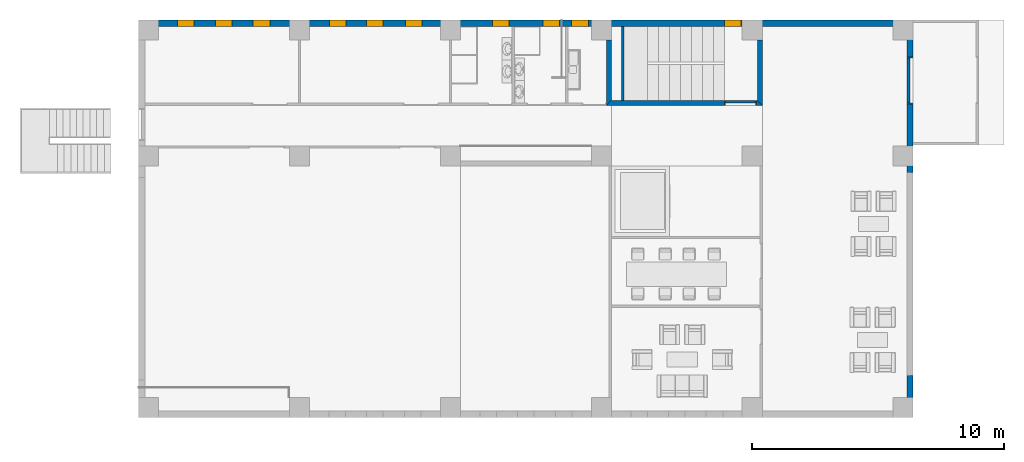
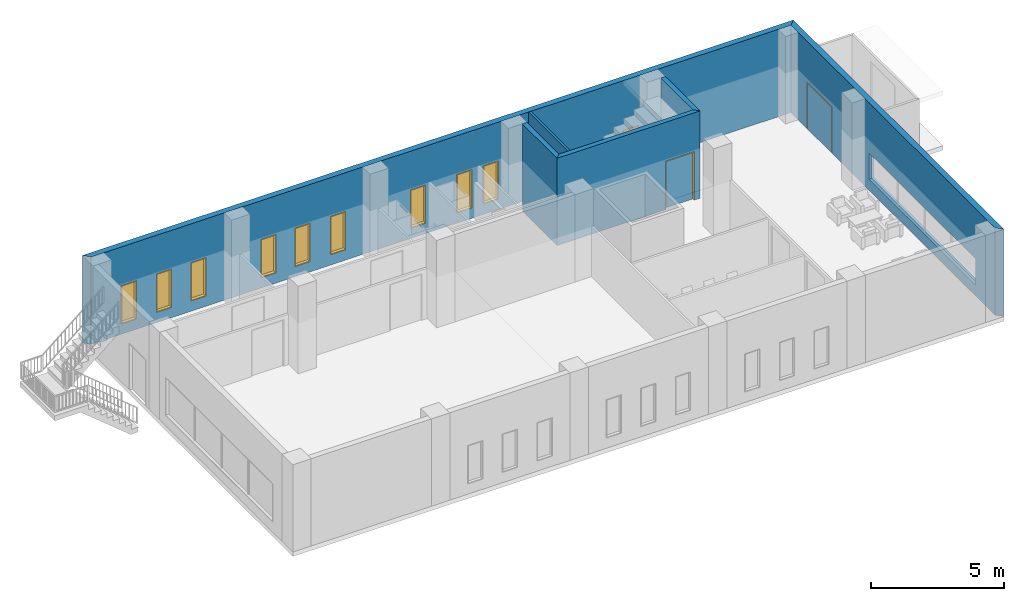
# One storey, part 5 of 17: 10 windows, 6 walls, 2 doors, 13 openings.
"""IFC2X3 building model written with IfcOpenShell, lengths in millimetres."""

from ifc_helpers import new_model, entity, si_unit, converted_unit, direction, frame, origin_with_axes, origin_2d_with_axis, place, context, project, spatial, polyline, rectangle, outline, extrude, open_shell, surface_model, source, transform, mapped, material, layer, layer_set, layer_usage, type_object, element, fill, save


model = new_model("IFC2X3")

# Units and contexts
model_context = context("Model", 3, precision=1e-05, world=origin_with_axes(), true_north=direction((0.0, 1.0)))
ifc_project = project(units=[si_unit("LENGTHUNIT", "METRE", prefix="MILLI"), si_unit("AREAUNIT", "SQUARE_METRE"), si_unit("VOLUMEUNIT", "CUBIC_METRE"), converted_unit("PLANEANGLEUNIT", "DEGREE", entity("IfcPlaneAngleMeasure", 0.017453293), si_unit("PLANEANGLEUNIT", "RADIAN"), dimensions=[0, 0, 0, 0, 0, 0, 0]), si_unit("SOLIDANGLEUNIT", "STERADIAN"), si_unit("MASSUNIT", "GRAM"), si_unit("TIMEUNIT", "SECOND"), si_unit("THERMODYNAMICTEMPERATUREUNIT", "DEGREE_CELSIUS"), si_unit("LUMINOUSINTENSITYUNIT", "LUMEN")], contexts=[model_context])

# Site, building, storey
site_placement = place(None, origin_with_axes())
site = spatial("IfcSite", under=ifc_project, at=site_placement, Name="\x83T\x83C\x83g", CompositionType="ELEMENT")
building_placement = place(site_placement, origin_with_axes())
building = spatial("IfcBuilding", under=site, at=building_placement, Name="Daitec-Sample 201208", CompositionType="ELEMENT")
storey_placement = place(building_placement, origin_with_axes())
storey = spatial("IfcBuildingStorey", under=building, at=storey_placement, Name="1F", CompositionType="ELEMENT", Elevation=0.0)

# Wall, openings, door
ifc_material_1 = material(Name="\x83R\x83\x93\x83N\x83\x8a\x81[\x83g-\x8d\\\x91¢2")
ifc_layer_1 = layer(ifc_material_1, 250.0, ventilated="UNKNOWN")
ifc_layer_set_1 = layer_set([ifc_layer_1], Name="\x83R\x83\x93\x83N\x83\x8a\x81[\x83g-\x8d\\\x91¢2 250")
ifc_layer_usage_1 = layer_usage(ifc_layer_set_1, "AXIS2", "POSITIVE", 0.0)
wall_type_1 = type_object("IfcWallType", Name="\x83R\x83\x93\x83N\x83\x8a\x81[\x83g-\x8d\\\x91¢2 250", PredefinedType="NOTDEFINED")
wall_1_placement = place(storey_placement, frame((36900.0, 8000.0, 0.0), z_axis=(0.0, 0.0, 1.0), x_axis=(0.0, 1.0, 0.0)))
wall_1 = element("IfcWallStandardCase", 1, at=wall_1_placement, inside=storey, type_object=wall_type_1, material=ifc_layer_usage_1, Name="W7", context=model_context, shape_type="SweptSolid", body=[
    extrude(outline(polyline([(0.0, 0.0), (15800.0, 0.0), (15550.0, 250.0), (250.0, 250.0), (0.0, 0.0)])), origin_with_axes(), (0.0, 0.0, 1.0), 4000.0),
])
opening_1_placement = place(wall_1_placement, frame((5705.9474, 0.0, 500.0), z_axis=(0.0, 0.0, 1.0), x_axis=(1.0, 0.0, 0.0)))
element("IfcOpeningElement", 2, at=opening_1_placement, cuts=wall_1, context=model_context, shape_type="SweptSolid", body=[
    extrude(rectangle(XDim=8000.0, YDim=1200.0, at=origin_2d_with_axis()), frame((0.0, -1.0, 600.0), z_axis=(0.0, 1.0, 0.0), x_axis=(1.0, 0.0, 0.0)), (0.0, 0.0, 1.0), 252.0),
    extrude(rectangle(XDim=8000.0, YDim=1200.0, at=origin_2d_with_axis()), frame((0.0, 1.0, 600.0), z_axis=(0.0, -1.0, 0.0), x_axis=(1.0, 0.0, 0.0)), (0.0, 0.0, 1.0), 252.0),
    extrude(rectangle(XDim=8060.0, YDim=1260.0, at=origin_2d_with_axis()), frame((0.0, 126.0, 600.0), z_axis=(0.0, -1.0, 0.0), x_axis=(1.0, 0.0, 0.0)), (0.0, 0.0, 1.0), 252.0),
])
opening_2_placement = place(wall_1_placement, frame((13394.849, 0.0, 0.0), z_axis=(0.0, 0.0, 1.0), x_axis=(1.0, 0.0, 0.0)))
opening_2 = element("IfcOpeningElement", 3, at=opening_2_placement, cuts=wall_1, context=model_context, shape_type="SweptSolid", body=[
    extrude(rectangle(XDim=1860.0, YDim=2130.0, at=origin_2d_with_axis()), frame((0.0, 126.0, 1065.0), z_axis=(0.0, -1.0, 0.0), x_axis=(1.0, 0.0, 0.0)), (0.0, 0.0, 1.0), 252.0),
])
ifc_material_2 = material(Name="\x94w\x8ci")
door_style_1 = type_object("IfcDoorStyle", Name="\x8e©\x97R\x8aJ\x82«\x8cË_JX5", ConstructionType="NOTDEFINED", OperationType="NOTDEFINED", ParameterTakesPrecedence=False, Sizeable=False)
door_1_placement = place(opening_2_placement, frame((-900.0, 0.0, 0.0), z_axis=(0.0, 0.0, 1.0), x_axis=(1.0, 0.0, 0.0)))
door_1 = element("IfcDoor", 4, at=door_1_placement, inside=storey, type_object=door_style_1, material=ifc_material_2, Name="SD6", OverallHeight=2100.0, OverallWidth=1800.0, context=model_context, shape_type="SurfaceModel", body=[
    surface_model("IfcShellBasedSurfaceModel", [(900.0, 125.0, 0.0), (900.0, 125.0, 2100.0), (0.0, 125.0, 2100.0), (0.0, 125.0, 0.0)], [open_shell([[[0, 1, 2, 3]]])]),
    surface_model("IfcShellBasedSurfaceModel", [(900.0, 125.0, 0.0), (1800.0, 125.0, 0.0), (1800.0, 125.0, 2100.0), (900.0, 125.0, 2100.0)], [open_shell([[[0, 1, 2, 3]]])]),
    surface_model("IfcShellBasedSurfaceModel", [(1830.0, 0.0, 0.0), (1830.0, 0.0, 2130.0), (-30.0, 0.0, 2130.0), (-30.0, 0.0, 0.0), (0.0, 0.0, 0.0), (0.0, 0.0, 2100.0), (1800.0, 0.0, 2100.0), (1800.0, 0.0, 0.0)], [open_shell([[[0, 1, 2, 3, 4, 5, 6, 7]]])]),
    surface_model("IfcShellBasedSurfaceModel", [(1830.0, 250.0, 0.0), (1830.0, 250.0, 2130.0), (-30.0, 250.0, 2130.0), (-30.0, 250.0, 0.0), (0.0, 250.0, 0.0), (0.0, 250.0, 2100.0), (1800.0, 250.0, 2100.0), (1800.0, 250.0, 0.0)], [open_shell([[[0, 1, 2, 3, 4, 5, 6, 7]]])]),
    surface_model("IfcShellBasedSurfaceModel", [(1800.0, 0.0, 0.0), (1800.0, 0.0, 2100.0), (1800.0, 250.0, 2100.0), (1800.0, 250.0, 0.0), (0.0, 0.0, 2100.0), (0.0, 250.0, 2100.0), (1830.0, 0.0, 0.0), (1830.0, 250.0, 0.0), (0.0, 0.0, 0.0), (0.0, 250.0, 0.0), (1830.0, 0.0, 2130.0), (1830.0, 250.0, 2130.0), (-30.0, 0.0, 0.0), (-30.0, 250.0, 0.0), (-30.0, 0.0, 2130.0), (-30.0, 250.0, 2130.0)], [open_shell([[[0, 1, 2, 3]], [[1, 4, 5, 2]], [[6, 0, 3, 7]], [[4, 8, 9, 5]], [[10, 6, 7, 11]], [[8, 12, 13, 9]], [[14, 10, 11, 15]], [[12, 14, 15, 13]]])]),
])
fill(opening_2, door_1)

# Wall, openings, windows
ifc_layer_usage_2 = layer_usage(ifc_layer_set_1, "AXIS2", "POSITIVE", 0.0)
wall_2_placement = place(storey_placement, frame((36900.0, 23800.0, 0.0), z_axis=(0.0, 0.0, 1.0), x_axis=(-1.0, 0.0, 0.0)))
wall_2 = element("IfcWallStandardCase", 5, at=wall_2_placement, inside=storey, type_object=wall_type_1, material=ifc_layer_usage_2, Name="W8", context=model_context, shape_type="SweptSolid", body=[
    extrude(outline(polyline([(0.0, 0.0), (30800.0, 0.0), (30550.0, 250.0), (250.0, 250.0), (0.0, 0.0)])), origin_with_axes(), (0.0, 0.0, 1.0), 4000.0),
])
opening_3_placement = place(wall_2_placement, frame((28920.264, 0.0, 500.0), z_axis=(0.0, 0.0, 1.0), x_axis=(1.0, 0.0, 0.0)))
opening_3 = element("IfcOpeningElement", 6, at=opening_3_placement, cuts=wall_2, context=model_context, shape_type="SweptSolid", body=[
    extrude(rectangle(XDim=600.0, YDim=1700.0, at=origin_2d_with_axis()), frame((0.0, 59.0, 850.0), z_axis=(0.0, 1.0, 0.0), x_axis=(1.0, 0.0, 0.0)), (0.0, 0.0, 1.0), 252.0),
    extrude(rectangle(XDim=600.0, YDim=1700.0, at=origin_2d_with_axis()), frame((0.0, 61.0, 850.0), z_axis=(0.0, -1.0, 0.0), x_axis=(1.0, 0.0, 0.0)), (0.0, 0.0, 1.0), 252.0),
    extrude(rectangle(XDim=660.0, YDim=1760.0, at=origin_2d_with_axis()), frame((0.0, -66.0, 850.0), z_axis=(0.0, 1.0, 0.0), x_axis=(1.0, 0.0, 0.0)), (0.0, 0.0, 1.0), 252.0),
])
opening_4_placement = place(wall_2_placement, frame((27403.544, 0.0, 500.0), z_axis=(0.0, 0.0, 1.0), x_axis=(1.0, 0.0, 0.0)))
opening_4 = element("IfcOpeningElement", 7, at=opening_4_placement, cuts=wall_2, context=model_context, shape_type="SweptSolid", body=[
    extrude(rectangle(XDim=600.0, YDim=1700.0, at=origin_2d_with_axis()), frame((0.0, 59.0, 850.0), z_axis=(0.0, 1.0, 0.0), x_axis=(1.0, 0.0, 0.0)), (0.0, 0.0, 1.0), 252.0),
    extrude(rectangle(XDim=600.0, YDim=1700.0, at=origin_2d_with_axis()), frame((0.0, 61.0, 850.0), z_axis=(0.0, -1.0, 0.0), x_axis=(1.0, 0.0, 0.0)), (0.0, 0.0, 1.0), 252.0),
    extrude(rectangle(XDim=660.0, YDim=1760.0, at=origin_2d_with_axis()), frame((0.0, -66.0, 850.0), z_axis=(0.0, 1.0, 0.0), x_axis=(1.0, 0.0, 0.0)), (0.0, 0.0, 1.0), 252.0),
])
opening_5_placement = place(wall_2_placement, frame((25908.913, 0.0, 500.0), z_axis=(0.0, 0.0, 1.0), x_axis=(1.0, 0.0, 0.0)))
opening_5 = element("IfcOpeningElement", 8, at=opening_5_placement, cuts=wall_2, context=model_context, shape_type="SweptSolid", body=[
    extrude(rectangle(XDim=600.0, YDim=1700.0, at=origin_2d_with_axis()), frame((0.0, 191.0, 850.0), z_axis=(0.0, -1.0, 0.0), x_axis=(1.0, 0.0, 0.0)), (0.0, 0.0, 1.0), 252.0),
    extrude(rectangle(XDim=600.0, YDim=1700.0, at=origin_2d_with_axis()), frame((0.0, 189.0, 850.0), z_axis=(0.0, 1.0, 0.0), x_axis=(1.0, 0.0, 0.0)), (0.0, 0.0, 1.0), 252.0),
    extrude(rectangle(XDim=660.0, YDim=1760.0, at=origin_2d_with_axis()), frame((0.0, 316.0, 850.0), z_axis=(0.0, -1.0, 0.0), x_axis=(1.0, 0.0, 0.0)), (0.0, 0.0, 1.0), 252.0),
])
opening_6_placement = place(wall_2_placement, frame((21400.0, 0.0, 500.0), z_axis=(0.0, 0.0, 1.0), x_axis=(1.0, 0.0, 0.0)))
opening_6 = element("IfcOpeningElement", 9, at=opening_6_placement, cuts=wall_2, context=model_context, shape_type="SweptSolid", body=[
    extrude(rectangle(XDim=600.0, YDim=1700.0, at=origin_2d_with_axis()), frame((0.0, 191.0, 850.0), z_axis=(0.0, -1.0, 0.0), x_axis=(1.0, 0.0, 0.0)), (0.0, 0.0, 1.0), 252.0),
    extrude(rectangle(XDim=600.0, YDim=1700.0, at=origin_2d_with_axis()), frame((0.0, 189.0, 850.0), z_axis=(0.0, 1.0, 0.0), x_axis=(1.0, 0.0, 0.0)), (0.0, 0.0, 1.0), 252.0),
    extrude(rectangle(XDim=660.0, YDim=1760.0, at=origin_2d_with_axis()), frame((0.0, 316.0, 850.0), z_axis=(0.0, -1.0, 0.0), x_axis=(1.0, 0.0, 0.0)), (0.0, 0.0, 1.0), 252.0),
])
opening_7_placement = place(wall_2_placement, frame((22875.473, 0.0, 500.0), z_axis=(0.0, 0.0, 1.0), x_axis=(1.0, 0.0, 0.0)))
opening_7 = element("IfcOpeningElement", 10, at=opening_7_placement, cuts=wall_2, context=model_context, shape_type="SweptSolid", body=[
    extrude(rectangle(XDim=600.0, YDim=1700.0, at=origin_2d_with_axis()), frame((0.0, 191.0, 850.0), z_axis=(0.0, -1.0, 0.0), x_axis=(1.0, 0.0, 0.0)), (0.0, 0.0, 1.0), 252.0),
    extrude(rectangle(XDim=600.0, YDim=1700.0, at=origin_2d_with_axis()), frame((0.0, 189.0, 850.0), z_axis=(0.0, 1.0, 0.0), x_axis=(1.0, 0.0, 0.0)), (0.0, 0.0, 1.0), 252.0),
    extrude(rectangle(XDim=660.0, YDim=1760.0, at=origin_2d_with_axis()), frame((0.0, 316.0, 850.0), z_axis=(0.0, -1.0, 0.0), x_axis=(1.0, 0.0, 0.0)), (0.0, 0.0, 1.0), 252.0),
])
opening_8_placement = place(wall_2_placement, frame((19864.122, 0.0, 500.0), z_axis=(0.0, 0.0, 1.0), x_axis=(1.0, 0.0, 0.0)))
opening_8 = element("IfcOpeningElement", 11, at=opening_8_placement, cuts=wall_2, context=model_context, shape_type="SweptSolid", body=[
    extrude(rectangle(XDim=600.0, YDim=1700.0, at=origin_2d_with_axis()), frame((0.0, 191.0, 850.0), z_axis=(0.0, -1.0, 0.0), x_axis=(1.0, 0.0, 0.0)), (0.0, 0.0, 1.0), 252.0),
    extrude(rectangle(XDim=600.0, YDim=1700.0, at=origin_2d_with_axis()), frame((0.0, 189.0, 850.0), z_axis=(0.0, 1.0, 0.0), x_axis=(1.0, 0.0, 0.0)), (0.0, 0.0, 1.0), 252.0),
    extrude(rectangle(XDim=660.0, YDim=1760.0, at=origin_2d_with_axis()), frame((0.0, 316.0, 850.0), z_axis=(0.0, -1.0, 0.0), x_axis=(1.0, 0.0, 0.0)), (0.0, 0.0, 1.0), 252.0),
])
opening_9_placement = place(wall_2_placement, frame((7180.7752, 0.0, 500.0), z_axis=(0.0, 0.0, 1.0), x_axis=(1.0, 0.0, 0.0)))
opening_9 = element("IfcOpeningElement", 12, at=opening_9_placement, cuts=wall_2, context=model_context, shape_type="SweptSolid", body=[
    extrude(rectangle(XDim=600.0, YDim=1200.0, at=origin_2d_with_axis()), frame((0.0, 59.0, 600.0), z_axis=(0.0, 1.0, 0.0), x_axis=(1.0, 0.0, 0.0)), (0.0, 0.0, 1.0), 252.0),
    extrude(rectangle(XDim=600.0, YDim=1200.0, at=origin_2d_with_axis()), frame((0.0, 61.0, 600.0), z_axis=(0.0, -1.0, 0.0), x_axis=(1.0, 0.0, 0.0)), (0.0, 0.0, 1.0), 252.0),
    extrude(rectangle(XDim=660.0, YDim=1260.0, at=origin_2d_with_axis()), frame((0.0, -66.0, 600.0), z_axis=(0.0, 1.0, 0.0), x_axis=(1.0, 0.0, 0.0)), (0.0, 0.0, 1.0), 252.0),
])
opening_10_placement = place(wall_2_placement, frame((16396.197, 0.0, 500.0), z_axis=(0.0, 0.0, 1.0), x_axis=(1.0, 0.0, 0.0)))
opening_10 = element("IfcOpeningElement", 13, at=opening_10_placement, cuts=wall_2, context=model_context, shape_type="SweptSolid", body=[
    extrude(rectangle(XDim=600.0, YDim=1700.0, at=origin_2d_with_axis()), frame((0.0, -1.0, 850.0), z_axis=(0.0, 1.0, 0.0), x_axis=(1.0, 0.0, 0.0)), (0.0, 0.0, 1.0), 252.0),
    extrude(rectangle(XDim=600.0, YDim=1700.0, at=origin_2d_with_axis()), frame((0.0, 1.0, 850.0), z_axis=(0.0, -1.0, 0.0), x_axis=(1.0, 0.0, 0.0)), (0.0, 0.0, 1.0), 252.0),
    extrude(rectangle(XDim=660.0, YDim=1760.0, at=origin_2d_with_axis()), frame((0.0, -126.0, 850.0), z_axis=(0.0, 1.0, 0.0), x_axis=(1.0, 0.0, 0.0)), (0.0, 0.0, 1.0), 252.0),
])
opening_11_placement = place(wall_2_placement, frame((14398.791, 0.0, 500.0), z_axis=(0.0, 0.0, 1.0), x_axis=(1.0, 0.0, 0.0)))
opening_11 = element("IfcOpeningElement", 14, at=opening_11_placement, cuts=wall_2, context=model_context, shape_type="SweptSolid", body=[
    extrude(rectangle(XDim=600.0, YDim=1700.0, at=origin_2d_with_axis()), frame((0.0, -1.0, 850.0), z_axis=(0.0, 1.0, 0.0), x_axis=(1.0, 0.0, 0.0)), (0.0, 0.0, 1.0), 252.0),
    extrude(rectangle(XDim=600.0, YDim=1700.0, at=origin_2d_with_axis()), frame((0.0, 1.0, 850.0), z_axis=(0.0, -1.0, 0.0), x_axis=(1.0, 0.0, 0.0)), (0.0, 0.0, 1.0), 252.0),
    extrude(rectangle(XDim=660.0, YDim=1760.0, at=origin_2d_with_axis()), frame((0.0, -126.0, 850.0), z_axis=(0.0, 1.0, 0.0), x_axis=(1.0, 0.0, 0.0)), (0.0, 0.0, 1.0), 252.0),
])
opening_12_placement = place(wall_2_placement, frame((13248.695, 0.0, 500.0), z_axis=(0.0, 0.0, 1.0), x_axis=(1.0, 0.0, 0.0)))
opening_12 = element("IfcOpeningElement", 15, at=opening_12_placement, cuts=wall_2, context=model_context, shape_type="SweptSolid", body=[
    extrude(rectangle(XDim=600.0, YDim=1700.0, at=origin_2d_with_axis()), frame((0.0, 191.0, 850.0), z_axis=(0.0, -1.0, 0.0), x_axis=(1.0, 0.0, 0.0)), (0.0, 0.0, 1.0), 252.0),
    extrude(rectangle(XDim=600.0, YDim=1700.0, at=origin_2d_with_axis()), frame((0.0, 189.0, 850.0), z_axis=(0.0, 1.0, 0.0), x_axis=(1.0, 0.0, 0.0)), (0.0, 0.0, 1.0), 252.0),
    extrude(rectangle(XDim=660.0, YDim=1760.0, at=origin_2d_with_axis()), frame((0.0, 316.0, 850.0), z_axis=(0.0, -1.0, 0.0), x_axis=(1.0, 0.0, 0.0)), (0.0, 0.0, 1.0), 252.0),
])
window_style = type_object("IfcWindowStyle", ConstructionType="NOTDEFINED", OperationType="NOTDEFINED", ParameterTakesPrecedence=False, Sizeable=False)
shared_shape_1 = source(origin_with_axes(), model_context, "Body", "SurfaceModel", [
    surface_model("IfcShellBasedSurfaceModel", [(-300.0, -65.0, 0.0), (-300.0, -65.0, 1700.0), (300.0, -65.0, 1700.0), (300.0, -65.0, 0.0), (-260.0, -65.0, 40.0), (260.0, -65.0, 40.0), (260.0, -65.0, 1660.0), (-260.0, -65.0, 1660.0)], [open_shell([[[0, 1, 2, 3], [4, 5, 6, 7]]])]),
    surface_model("IfcShellBasedSurfaceModel", [(-260.0, -65.0, 40.0), (-260.0, -65.0, 1660.0), (260.0, -65.0, 1660.0), (260.0, -65.0, 40.0)], [open_shell([[[0, 1, 2, 3]]])]),
    surface_model("IfcShellBasedSurfaceModel", [(-330.0, 60.0, -30.0), (-330.0, 60.0, 1730.0), (330.0, 60.0, 1730.0), (330.0, 60.0, -30.0), (-300.0, 60.0, 0.0), (300.0, 60.0, 0.0), (300.0, 60.0, 1700.0), (-300.0, 60.0, 1700.0)], [open_shell([[[0, 1, 2, 3], [4, 5, 6, 7]]])]),
    surface_model("IfcShellBasedSurfaceModel", [(-330.0, -190.0, -30.0), (-330.0, -190.0, 1730.0), (330.0, -190.0, 1730.0), (330.0, -190.0, -30.0), (-300.0, -190.0, 0.0), (300.0, -190.0, 0.0), (300.0, -190.0, 1700.0), (-300.0, -190.0, 1700.0)], [open_shell([[[0, 1, 2, 3], [4, 5, 6, 7]]])]),
    surface_model("IfcShellBasedSurfaceModel", [(-330.0, 60.0, -30.0), (330.0, 60.0, -30.0), (330.0, -190.0, -30.0), (-330.0, -190.0, -30.0), (330.0, 60.0, 1730.0), (330.0, -190.0, 1730.0), (-330.0, 60.0, 1730.0), (-330.0, -190.0, 1730.0)], [open_shell([[[0, 1, 2, 3]], [[1, 4, 5, 2]], [[6, 0, 3, 7]], [[4, 6, 7, 5]]])]),
    surface_model("IfcShellBasedSurfaceModel", [(-300.0, 60.0, 0.0), (300.0, 60.0, 0.0), (300.0, -190.0, 0.0), (-300.0, -190.0, 0.0), (300.0, 60.0, 1700.0), (300.0, -190.0, 1700.0), (-300.0, 60.0, 1700.0), (-300.0, -190.0, 1700.0)], [open_shell([[[0, 1, 2, 3]], [[1, 4, 5, 2]], [[6, 0, 3, 7]], [[4, 6, 7, 5]]])]),
])
window_1_placement = place(opening_3_placement, frame((-300.0, 0.0, 0.0), z_axis=(0.0, 0.0, 1.0), x_axis=(1.0, 0.0, 0.0)))
window_1 = element("IfcWindow", 16, at=window_1_placement, inside=storey, type_object=window_style, material=ifc_material_2, Name="AW8", OverallHeight=1700.0, OverallWidth=600.0, context=model_context, shape_type="MappedRepresentation", body=[
    mapped(shared_shape_1, transform((300.0, 60.0, 0.0), x_axis=(-1.0, 0.0, 0.0), y_axis=(0.0, -1.0, 0.0), z_axis=(0.0, 0.0, 1.0))),
])
fill(opening_3, window_1)
window_2_placement = place(opening_4_placement, frame((-300.0, 0.0, 0.0), z_axis=(0.0, 0.0, 1.0), x_axis=(1.0, 0.0, 0.0)))
window_2 = element("IfcWindow", 17, at=window_2_placement, inside=storey, type_object=window_style, material=ifc_material_2, Name="AW9", OverallHeight=1700.0, OverallWidth=600.0, context=model_context, shape_type="MappedRepresentation", body=[
    mapped(shared_shape_1, transform((300.0, 60.0, 0.0), x_axis=(-1.0, 0.0, 0.0), y_axis=(0.0, -1.0, 0.0), z_axis=(0.0, 0.0, 1.0))),
])
fill(opening_4, window_2)
shared_shape_2 = source(origin_with_axes(), model_context, "Body", "SurfaceModel", [
    surface_model("IfcShellBasedSurfaceModel", [(-300.0, 65.0, 0.0), (-300.0, 65.0, 1700.0), (300.0, 65.0, 1700.0), (300.0, 65.0, 0.0), (-260.0, 65.0, 40.0), (260.0, 65.0, 40.0), (260.0, 65.0, 1660.0), (-260.0, 65.0, 1660.0)], [open_shell([[[0, 1, 2, 3], [4, 5, 6, 7]]])]),
    surface_model("IfcShellBasedSurfaceModel", [(-260.0, 65.0, 40.0), (-260.0, 65.0, 1660.0), (260.0, 65.0, 1660.0), (260.0, 65.0, 40.0)], [open_shell([[[0, 1, 2, 3]]])]),
    surface_model("IfcShellBasedSurfaceModel", [(-330.0, 190.0, -30.0), (-330.0, 190.0, 1730.0), (330.0, 190.0, 1730.0), (330.0, 190.0, -30.0), (-300.0, 190.0, 0.0), (300.0, 190.0, 0.0), (300.0, 190.0, 1700.0), (-300.0, 190.0, 1700.0)], [open_shell([[[0, 1, 2, 3], [4, 5, 6, 7]]])]),
    surface_model("IfcShellBasedSurfaceModel", [(-330.0, -60.0, -30.0), (-330.0, -60.0, 1730.0), (330.0, -60.0, 1730.0), (330.0, -60.0, -30.0), (-300.0, -60.0, 0.0), (300.0, -60.0, 0.0), (300.0, -60.0, 1700.0), (-300.0, -60.0, 1700.0)], [open_shell([[[0, 1, 2, 3], [4, 5, 6, 7]]])]),
    surface_model("IfcShellBasedSurfaceModel", [(-330.0, 190.0, -30.0), (330.0, 190.0, -30.0), (330.0, -60.0, -30.0), (-330.0, -60.0, -30.0), (330.0, 190.0, 1730.0), (330.0, -60.0, 1730.0), (-330.0, 190.0, 1730.0), (-330.0, -60.0, 1730.0)], [open_shell([[[0, 1, 2, 3]], [[1, 4, 5, 2]], [[6, 0, 3, 7]], [[4, 6, 7, 5]]])]),
    surface_model("IfcShellBasedSurfaceModel", [(-300.0, 190.0, 0.0), (300.0, 190.0, 0.0), (300.0, -60.0, 0.0), (-300.0, -60.0, 0.0), (300.0, 190.0, 1700.0), (300.0, -60.0, 1700.0), (-300.0, 190.0, 1700.0), (-300.0, -60.0, 1700.0)], [open_shell([[[0, 1, 2, 3]], [[1, 4, 5, 2]], [[6, 0, 3, 7]], [[4, 6, 7, 5]]])]),
])
window_3_placement = place(opening_5_placement, frame((-300.0, 0.0, 0.0), z_axis=(0.0, 0.0, 1.0), x_axis=(1.0, 0.0, 0.0)))
window_3 = element("IfcWindow", 18, at=window_3_placement, inside=storey, type_object=window_style, material=ifc_material_2, Name="AW0", OverallHeight=1700.0, OverallWidth=600.0, context=model_context, shape_type="MappedRepresentation", body=[
    mapped(shared_shape_2, transform((300.0, 60.0, 0.0))),
])
fill(opening_5, window_3)
window_4_placement = place(opening_6_placement, frame((-300.0, 0.0, 0.0), z_axis=(0.0, 0.0, 1.0), x_axis=(1.0, 0.0, 0.0)))
window_4 = element("IfcWindow", 19, at=window_4_placement, inside=storey, type_object=window_style, material=ifc_material_2, Name="AW1", OverallHeight=1700.0, OverallWidth=600.0, context=model_context, shape_type="MappedRepresentation", body=[
    mapped(shared_shape_2, transform((300.0, 60.0, 0.0))),
])
fill(opening_6, window_4)
window_5_placement = place(opening_7_placement, frame((-300.0, 0.0, 0.0), z_axis=(0.0, 0.0, 1.0), x_axis=(1.0, 0.0, 0.0)))
window_5 = element("IfcWindow", 20, at=window_5_placement, inside=storey, type_object=window_style, material=ifc_material_2, Name="AW2", OverallHeight=1700.0, OverallWidth=600.0, context=model_context, shape_type="MappedRepresentation", body=[
    mapped(shared_shape_2, transform((300.0, 60.0, 0.0))),
])
fill(opening_7, window_5)
window_6_placement = place(opening_8_placement, frame((-300.0, 0.0, 0.0), z_axis=(0.0, 0.0, 1.0), x_axis=(1.0, 0.0, 0.0)))
window_6 = element("IfcWindow", 21, at=window_6_placement, inside=storey, type_object=window_style, material=ifc_material_2, Name="AW3", OverallHeight=1700.0, OverallWidth=600.0, context=model_context, shape_type="MappedRepresentation", body=[
    mapped(shared_shape_2, transform((300.0, 60.0, 0.0))),
])
fill(opening_8, window_6)
window_7_placement = place(opening_12_placement, frame((-300.0, 0.0, 0.0), z_axis=(0.0, 0.0, 1.0), x_axis=(1.0, 0.0, 0.0)))
window_7 = element("IfcWindow", 22, at=window_7_placement, inside=storey, type_object=window_style, material=ifc_material_2, Name="AW4", OverallHeight=1700.0, OverallWidth=600.0, context=model_context, shape_type="MappedRepresentation", body=[
    mapped(shared_shape_2, transform((300.0, 60.0, 0.0))),
])
fill(opening_12, window_7)
shared_shape_3 = source(origin_with_axes(), model_context, "Body", "SurfaceModel", [
    surface_model("IfcShellBasedSurfaceModel", [(-300.0, -65.0, 0.0), (-300.0, -65.0, 1200.0), (300.0, -65.0, 1200.0), (300.0, -65.0, 0.0), (-260.0, -65.0, 40.0), (260.0, -65.0, 40.0), (260.0, -65.0, 1160.0), (-260.0, -65.0, 1160.0)], [open_shell([[[0, 1, 2, 3], [4, 5, 6, 7]]])]),
    surface_model("IfcShellBasedSurfaceModel", [(-260.0, -65.0, 40.0), (-260.0, -65.0, 1160.0), (260.0, -65.0, 1160.0), (260.0, -65.0, 40.0)], [open_shell([[[0, 1, 2, 3]]])]),
    surface_model("IfcShellBasedSurfaceModel", [(-330.0, 60.0, -30.0), (-330.0, 60.0, 1230.0), (330.0, 60.0, 1230.0), (330.0, 60.0, -30.0), (-300.0, 60.0, 0.0), (300.0, 60.0, 0.0), (300.0, 60.0, 1200.0), (-300.0, 60.0, 1200.0)], [open_shell([[[0, 1, 2, 3], [4, 5, 6, 7]]])]),
    surface_model("IfcShellBasedSurfaceModel", [(-330.0, -190.0, -30.0), (-330.0, -190.0, 1230.0), (330.0, -190.0, 1230.0), (330.0, -190.0, -30.0), (-300.0, -190.0, 0.0), (300.0, -190.0, 0.0), (300.0, -190.0, 1200.0), (-300.0, -190.0, 1200.0)], [open_shell([[[0, 1, 2, 3], [4, 5, 6, 7]]])]),
    surface_model("IfcShellBasedSurfaceModel", [(-330.0, 60.0, -30.0), (330.0, 60.0, -30.0), (330.0, -190.0, -30.0), (-330.0, -190.0, -30.0), (330.0, 60.0, 1230.0), (330.0, -190.0, 1230.0), (-330.0, 60.0, 1230.0), (-330.0, -190.0, 1230.0)], [open_shell([[[0, 1, 2, 3]], [[1, 4, 5, 2]], [[6, 0, 3, 7]], [[4, 6, 7, 5]]])]),
    surface_model("IfcShellBasedSurfaceModel", [(-300.0, 60.0, 0.0), (300.0, 60.0, 0.0), (300.0, -190.0, 0.0), (-300.0, -190.0, 0.0), (300.0, 60.0, 1200.0), (300.0, -190.0, 1200.0), (-300.0, 60.0, 1200.0), (-300.0, -190.0, 1200.0)], [open_shell([[[0, 1, 2, 3]], [[1, 4, 5, 2]], [[6, 0, 3, 7]], [[4, 6, 7, 5]]])]),
])
window_8_placement = place(opening_9_placement, frame((-300.0, 0.0, 0.0), z_axis=(0.0, 0.0, 1.0), x_axis=(1.0, 0.0, 0.0)))
window_8 = element("IfcWindow", 23, at=window_8_placement, inside=storey, type_object=window_style, material=ifc_material_2, Name="AW1", OverallHeight=1200.0, OverallWidth=600.0, context=model_context, shape_type="MappedRepresentation", body=[
    mapped(shared_shape_3, transform((300.0, 60.0, 0.0), x_axis=(-1.0, 0.0, 0.0), y_axis=(0.0, -1.0, 0.0), z_axis=(0.0, 0.0, 1.0))),
])
fill(opening_9, window_8)
shared_shape_4 = source(origin_with_axes(), model_context, "Body", "SurfaceModel", [
    surface_model("IfcShellBasedSurfaceModel", [(-300.0, -125.0, 0.0), (-300.0, -125.0, 1700.0), (300.0, -125.0, 1700.0), (300.0, -125.0, 0.0), (-260.0, -125.0, 40.0), (260.0, -125.0, 40.0), (260.0, -125.0, 1660.0), (-260.0, -125.0, 1660.0)], [open_shell([[[0, 1, 2, 3], [4, 5, 6, 7]]])]),
    surface_model("IfcShellBasedSurfaceModel", [(-260.0, -125.0, 40.0), (-260.0, -125.0, 1660.0), (260.0, -125.0, 1660.0), (260.0, -125.0, 40.0)], [open_shell([[[0, 1, 2, 3]]])]),
    surface_model("IfcShellBasedSurfaceModel", [(-330.0, 0.0, -30.0), (-330.0, 0.0, 1730.0), (330.0, 0.0, 1730.0), (330.0, 0.0, -30.0), (-300.0, 0.0, 0.0), (300.0, 0.0, 0.0), (300.0, 0.0, 1700.0), (-300.0, 0.0, 1700.0)], [open_shell([[[0, 1, 2, 3], [4, 5, 6, 7]]])]),
    surface_model("IfcShellBasedSurfaceModel", [(-330.0, -250.0, -30.0), (-330.0, -250.0, 1730.0), (330.0, -250.0, 1730.0), (330.0, -250.0, -30.0), (-300.0, -250.0, 0.0), (300.0, -250.0, 0.0), (300.0, -250.0, 1700.0), (-300.0, -250.0, 1700.0)], [open_shell([[[0, 1, 2, 3], [4, 5, 6, 7]]])]),
    surface_model("IfcShellBasedSurfaceModel", [(-330.0, 0.0, -30.0), (330.0, 0.0, -30.0), (330.0, -250.0, -30.0), (-330.0, -250.0, -30.0), (330.0, 0.0, 1730.0), (330.0, -250.0, 1730.0), (-330.0, 0.0, 1730.0), (-330.0, -250.0, 1730.0)], [open_shell([[[0, 1, 2, 3]], [[1, 4, 5, 2]], [[6, 0, 3, 7]], [[4, 6, 7, 5]]])]),
    surface_model("IfcShellBasedSurfaceModel", [(-300.0, 0.0, 0.0), (300.0, 0.0, 0.0), (300.0, -250.0, 0.0), (-300.0, -250.0, 0.0), (300.0, 0.0, 1700.0), (300.0, -250.0, 1700.0), (-300.0, 0.0, 1700.0), (-300.0, -250.0, 1700.0)], [open_shell([[[0, 1, 2, 3]], [[1, 4, 5, 2]], [[6, 0, 3, 7]], [[4, 6, 7, 5]]])]),
])
window_9_placement = place(opening_10_placement, frame((-300.0, 0.0, 0.0), z_axis=(0.0, 0.0, 1.0), x_axis=(1.0, 0.0, 0.0)))
window_9 = element("IfcWindow", 24, at=window_9_placement, inside=storey, type_object=window_style, material=ifc_material_2, Name="AW3", OverallHeight=1700.0, OverallWidth=600.0, context=model_context, shape_type="MappedRepresentation", body=[
    mapped(shared_shape_4, transform((300.0, 0.0, 0.0), x_axis=(-1.0, 0.0, 0.0), y_axis=(0.0, -1.0, 0.0), z_axis=(0.0, 0.0, 1.0))),
])
fill(opening_10, window_9)
window_10_placement = place(opening_11_placement, frame((-300.0, 0.0, 0.0), z_axis=(0.0, 0.0, 1.0), x_axis=(1.0, 0.0, 0.0)))
window_10 = element("IfcWindow", 25, at=window_10_placement, inside=storey, type_object=window_style, material=ifc_material_2, Name="AW4", OverallHeight=1700.0, OverallWidth=600.0, context=model_context, shape_type="MappedRepresentation", body=[
    mapped(shared_shape_4, transform((300.0, 0.0, 0.0), x_axis=(-1.0, 0.0, 0.0), y_axis=(0.0, -1.0, 0.0), z_axis=(0.0, 0.0, 1.0))),
])
fill(opening_11, window_10)

# Wall, opening, door
ifc_layer_2 = layer(ifc_material_1, 200.0, ventilated="UNKNOWN")
ifc_layer_set_2 = layer_set([ifc_layer_2], Name="\x83R\x83\x93\x83N\x83\x8a\x81[\x83g-\x8d\\\x91¢2 200")
ifc_layer_usage_3 = layer_usage(ifc_layer_set_2, "AXIS2", "POSITIVE", 0.0)
wall_type_2 = type_object("IfcWallType", Name="\x83R\x83\x93\x83N\x83\x8a\x81[\x83g-\x8d\\\x91¢2 200", PredefinedType="NOTDEFINED")
wall_3_placement = place(storey_placement, frame((24900.0, 20399.909, 0.0), z_axis=(0.0, 0.0, 1.0), x_axis=(1.0, 0.0, 0.0)))
wall_3 = element("IfcWallStandardCase", 26, at=wall_3_placement, inside=storey, type_object=wall_type_2, material=ifc_layer_usage_3, Name="W3", context=model_context, shape_type="SweptSolid", body=[
    extrude(outline(polyline([(-200.0, 0.0), (6000.0, 0.0), (5800.0, 200.0), (0.0, 200.0), (-200.0, 0.0)])), origin_with_axes(), (0.0, 0.0, 1.0), 4000.0),
])
opening_13_placement = place(wall_3_placement, frame((5130.9913, 0.0, 0.0), z_axis=(0.0, 0.0, 1.0), x_axis=(1.0, 0.0, 0.0)))
opening_13 = element("IfcOpeningElement", 27, at=opening_13_placement, cuts=wall_3, context=model_context, shape_type="SweptSolid", body=[
    extrude(rectangle(XDim=1260.0, YDim=2230.0, at=origin_2d_with_axis()), frame((0.0, -101.0, 1115.0), z_axis=(0.0, 1.0, 0.0), x_axis=(1.0, 0.0, 0.0)), (0.0, 0.0, 1.0), 202.0),
])
door_style_2 = type_object("IfcDoorStyle", ConstructionType="NOTDEFINED", OperationType="NOTDEFINED", ParameterTakesPrecedence=False, Sizeable=False)
door_2_placement = place(opening_13_placement, frame((-600.0, 0.0, 0.0), z_axis=(0.0, 0.0, 1.0), x_axis=(1.0, 0.0, 0.0)))
door_2 = element("IfcDoor", 28, at=door_2_placement, inside=storey, type_object=door_style_2, material=ifc_material_2, Name="SD1", OverallHeight=2200.0, OverallWidth=1200.0, context=model_context, shape_type="SurfaceModel", body=[
    surface_model("IfcShellBasedSurfaceModel", [(-30.0, 0.0, 0.0), (0.0, 0.0, 0.0), (0.0, 0.0, 2200.0), (1200.0, 0.0, 2200.0), (1200.0, 0.0, 0.0), (1230.0, 0.0, 0.0), (1230.0, 0.0, 2230.0), (-30.0, 0.0, 2230.0)], [open_shell([[[0, 1, 2, 3, 4, 5, 6, 7]]])]),
    surface_model("IfcShellBasedSurfaceModel", [(-30.0, 200.0, 0.0), (0.0, 200.0, 0.0), (0.0, 200.0, 2200.0), (1200.0, 200.0, 2200.0), (1200.0, 200.0, 0.0), (1230.0, 200.0, 0.0), (1230.0, 200.0, 2230.0), (-30.0, 200.0, 2230.0)], [open_shell([[[0, 1, 2, 3, 4, 5, 6, 7]]])]),
    surface_model("IfcShellBasedSurfaceModel", [(0.0, 0.0, 0.0), (0.0, 200.0, 0.0), (0.0, 200.0, 2200.0), (0.0, 0.0, 2200.0), (-30.0, 0.0, 0.0), (-30.0, 200.0, 0.0), (1200.0, 200.0, 2200.0), (1200.0, 0.0, 2200.0), (-30.0, 0.0, 2230.0), (-30.0, 200.0, 2230.0), (1200.0, 200.0, 0.0), (1200.0, 0.0, 0.0), (1230.0, 0.0, 2230.0), (1230.0, 200.0, 2230.0), (1230.0, 200.0, 0.0), (1230.0, 0.0, 0.0)], [open_shell([[[0, 1, 2, 3]], [[4, 5, 1, 0]], [[3, 2, 6, 7]], [[8, 9, 5, 4]], [[7, 6, 10, 11]], [[12, 13, 9, 8]], [[11, 10, 14, 15]], [[15, 14, 13, 12]]])]),
])
fill(opening_13, door_2)

# Walls
ifc_layer_usage_4 = layer_usage(ifc_layer_set_2, "AXIS2", "NEGATIVE", 0.0)
wall_4_placement = place(storey_placement, frame((24900.0, 23000.0, 0.0), z_axis=(0.0, 0.0, 1.0), x_axis=(0.0, -1.0, 0.0)))
element("IfcWallStandardCase", 29, at=wall_4_placement, inside=storey, type_object=wall_type_2, material=ifc_layer_usage_4, Name="W2", context=model_context, shape_type="SweptSolid", body=[
    extrude(outline(polyline([(0.0, -200.0), (2600.0911, -200.0), (2400.0911, 0.0), (0.0, 0.0), (0.0, -200.0)])), origin_with_axes(), (0.0, 0.0, 1.0), 4000.0),
])
ifc_layer_usage_5 = layer_usage(ifc_layer_set_2, "AXIS2", "NEGATIVE", 0.0)
wall_5_placement = place(storey_placement, frame((30900.0, 23000.0, 0.0), z_axis=(0.0, 0.0, 1.0), x_axis=(0.0, -1.0, 0.0)))
element("IfcWallStandardCase", 30, at=wall_5_placement, inside=storey, type_object=wall_type_2, material=ifc_layer_usage_5, Name="W4", context=model_context, shape_type="SweptSolid", body=[
    extrude(outline(polyline([(0.0, -200.0), (2400.0911, -200.0), (2600.0911, 0.0), (0.0, 0.0), (0.0, -200.0)])), origin_with_axes(), (0.0, 0.0, 1.0), 4000.0),
])
ifc_layer_3 = layer(ifc_material_1, 100.0, ventilated="UNKNOWN")
ifc_layer_set_3 = layer_set([ifc_layer_3], Name="\x83R\x83\x93\x83N\x83\x8a\x81[\x83g-\x8d\\\x91¢2 100")
ifc_layer_usage_6 = layer_usage(ifc_layer_set_3, "AXIS2", "NEGATIVE", 0.0)
wall_type_3 = type_object("IfcWallType", Name="\x83R\x83\x93\x83N\x83\x8a\x81[\x83g-\x8d\\\x91¢2 100", PredefinedType="NOTDEFINED")
wall_6_placement = place(storey_placement, frame((25393.973, 23800.0, 0.0), z_axis=(0.0, 0.0, 1.0), x_axis=(0.0, -1.0, 0.0)))
element("IfcWallStandardCase", 31, at=wall_6_placement, inside=storey, type_object=wall_type_3, material=ifc_layer_usage_6, Name="W0", context=model_context, shape_type="SweptSolid", body=[
    extrude(outline(polyline([(250.0, -100.0), (3200.0, -100.0), (3200.0, 0.0), (250.0, 0.0), (250.0, -100.0)])), origin_with_axes(), (0.0, 0.0, 1.0), 4000.0),
])

save(model, "model.ifc")
